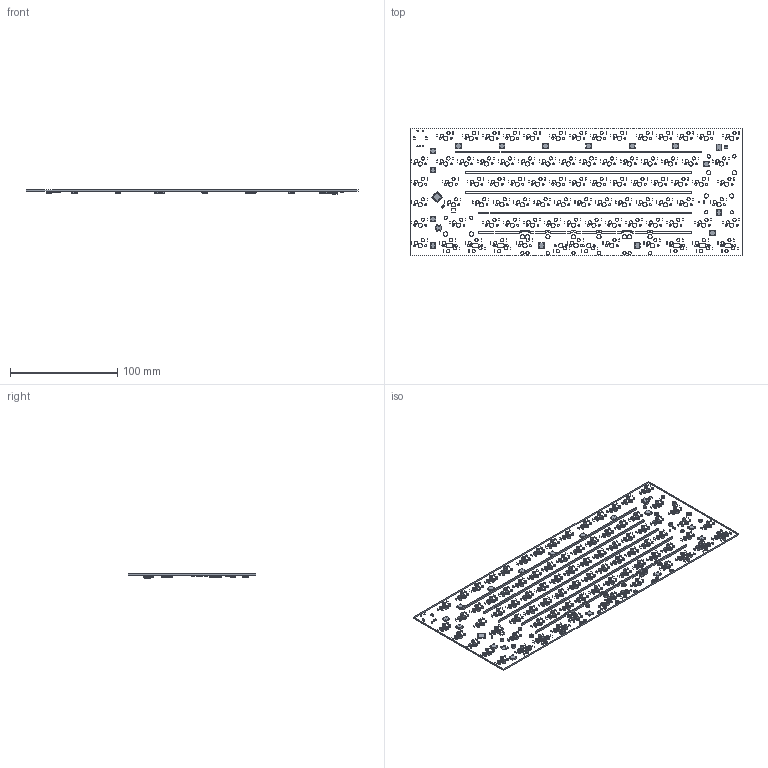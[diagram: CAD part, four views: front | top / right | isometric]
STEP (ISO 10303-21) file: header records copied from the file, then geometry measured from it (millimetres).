
FILE_DESCRIPTION(('KiCad electronic assembly'),'2;1');
FILE_NAME('75F_final.step','2022-03-13T13:54:50',('An Author'),( 'A Company'),'Open CASCADE STEP processor 7.5', 'KiCad to STEP converter','Unknown');
FILE_SCHEMA(('AUTOMOTIVE_DESIGN { 1 0 10303 214 1 1 1 1 }'));
Length unit declared in the file: millimetre
Products named in the file (14): Open CASCADE STEP translator 7.5 1; SW_SPST_TL3342; SOLID; SOT-143; Resonator_SMD_muRata_CSTxExxV-3Pin_3.0x1.1mm; LED_WS2812B_PLCC4_5.0x5.0mm_P3.2mm; QFN-44-1EP_7x7mm_P0.5mm_EP5.15x5.15mm; SM04B-SRSS-TB; COMPOUND
Assembly tree (27 placements, depth 3):
  Open CASCADE STEP translator 7.5 1
    SW_SPST_TL3342
      SOLID
    SOT-143
      SOLID
    Resonator_SMD_muRata_CSTxExxV-3Pin_3.0x1.1mm
      SOLID
    LED_WS2812B_PLCC4_5.0x5.0mm_P3.2mm  x15
      SOLID
    QFN-44-1EP_7x7mm_P0.5mm_EP5.15x5.15mm
      SOLID
    SM04B-SRSS-TB
      SOLID
    COMPOUND
Bounding box: 309.56 x 119.06 x 4.55 mm (x, y, z)
Volume: 52014.4 mm3; surface area: 77960.7 mm2
Topology: 21 solids, 22 shells, 2732 faces, 7957 edges, 5235 vertices
Faces by surface type: cylinder 1362, plane 1310, bspline 44, cone 15, torus 1
Full cylindrical faces by diameter (mm): 0.3 x364, 0.5 x1, 0.991 x3, 1 x5, 1.75 x168, 2 x1, 3 x181, 3.048 x14, 3.333 x15, 3.988 x92
Entity records: 138328 total; most frequent: CARTESIAN_POINT 24808, DIRECTION 20558, LINE 10923, VECTOR 10923, ORIENTED_EDGE 10280, PCURVE 10278, DEFINITIONAL_REPRESENTATION 10278, EDGE_CURVE 5139
